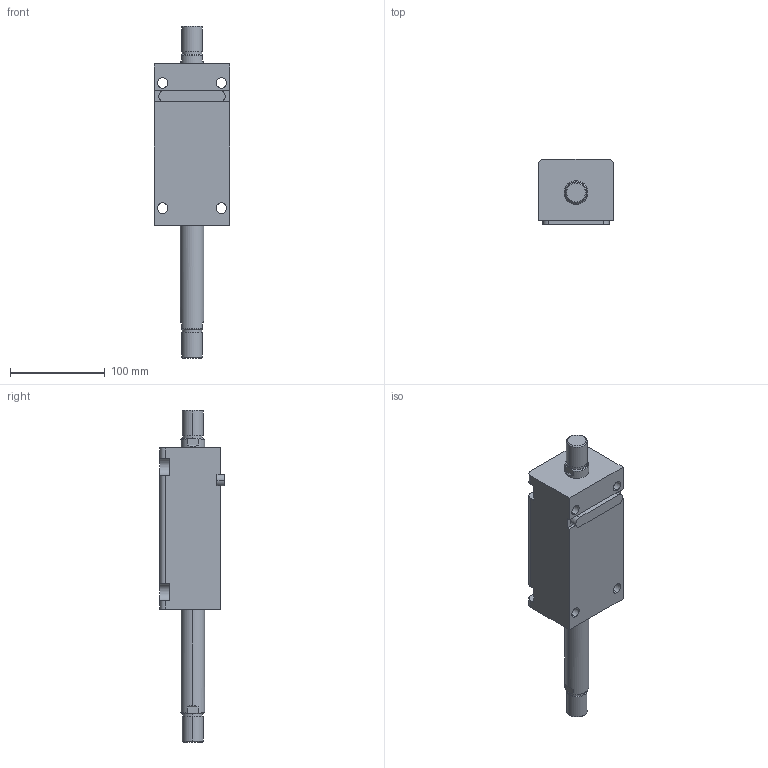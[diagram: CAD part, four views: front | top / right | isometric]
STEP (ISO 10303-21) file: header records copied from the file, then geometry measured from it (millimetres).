
FILE_DESCRIPTION (( 'STEP AP203' ), '1' );
FILE_NAME ('HTB-LW40-100W.STEP', '2019-10-09T08:00:02', ( '微软用户' ), ( '微软中国' ), 'SwSTEP 2.0', 'SolidWorks 2012', '' );
FILE_SCHEMA (( 'CONFIG_CONTROL_DESIGN' ));
Length unit declared in the file: millimetre
Products named in the file (4): HTB-LW40-100W; HTB-LA40-瑩; HTB-LW40-100W活塞杆; HTB-LW40-100掛极
Assembly tree (3 placements, depth 2):
  HTB-LW40-100W
    HTB-LW40-100掛极
    HTB-LW40-100W活塞杆
    HTB-LA40-瑩
Bounding box: 80 x 68.5 x 350 mm (x, y, z)
Volume: 840698.8 mm3; surface area: 119809.8 mm2
Topology: 3 solids, 3 shells, 113 faces, 273 edges, 178 vertices
Faces by surface type: plane 48, cylinder 45, cone 12, torus 8
Entity records: 3779 total; most frequent: CARTESIAN_POINT 622, DIRECTION 617, ORIENTED_EDGE 546, EDGE_CURVE 273, AXIS2_PLACEMENT_3D 241, VERTEX_POINT 178, EDGE_LOOP 135, VECTOR 135
